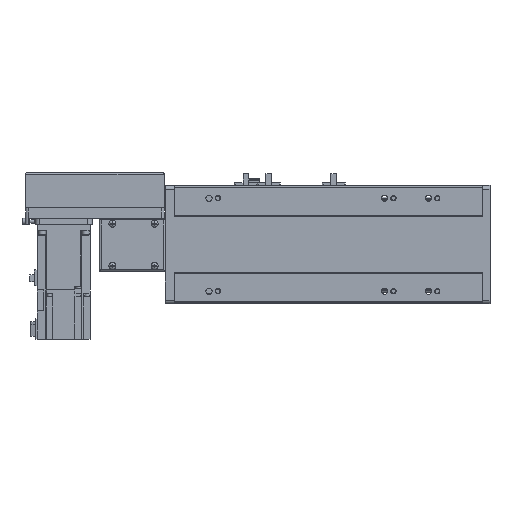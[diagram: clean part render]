
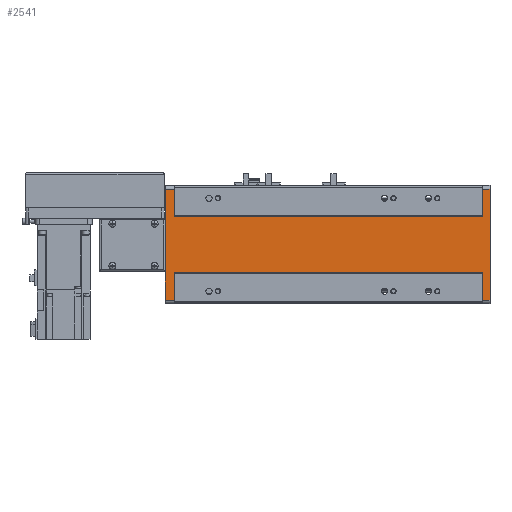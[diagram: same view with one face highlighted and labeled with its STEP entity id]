
A CAD part, front view. The second image highlights one B-rep face of the part: STEP entity #2541.
In plain terms, the highlighted planar face has unit normal (0, -1, 0).
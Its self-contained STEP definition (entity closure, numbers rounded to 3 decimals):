
#2541 = ADVANCED_FACE( '', ( #5406 ), #5407, .F. );
#5406 = FACE_OUTER_BOUND( '', #8538, .T. );
#5407 = PLANE( '', #8539 );
#8538 = EDGE_LOOP( '', ( #15620, #15621, #15622, #15623, #15624, #15625, #15626, #15627, #15628, #15629, #15630, #15631 ) );
#8539 = AXIS2_PLACEMENT_3D( '', #15632, #15633, #15634 );
#15620 = ORIENTED_EDGE( '', *, *, #18730, .T. );
#15621 = ORIENTED_EDGE( '', *, *, #19852, .F. );
#15622 = ORIENTED_EDGE( '', *, *, #19518, .F. );
#15623 = ORIENTED_EDGE( '', *, *, #20863, .T. );
#15624 = ORIENTED_EDGE( '', *, *, #19835, .T. );
#15625 = ORIENTED_EDGE( '', *, *, #20864, .F. );
#15626 = ORIENTED_EDGE( '', *, *, #20044, .F. );
#15627 = ORIENTED_EDGE( '', *, *, #19477, .T. );
#15628 = ORIENTED_EDGE( '', *, *, #20112, .F. );
#15629 = ORIENTED_EDGE( '', *, *, #20780, .F. );
#15630 = ORIENTED_EDGE( '', *, *, #19568, .T. );
#15631 = ORIENTED_EDGE( '', *, *, #20865, .T. );
#15632 = CARTESIAN_POINT( '', ( 362., 1., 32. ) );
#15633 = DIRECTION( '', ( 0., 1., 0. ) );
#15634 = DIRECTION( '', ( 0., 0., 1. ) );
#18730 = EDGE_CURVE( '', #22674, #22672, #22675, .T. );
#19477 = EDGE_CURVE( '', #23885, #23882, #23886, .T. );
#19518 = EDGE_CURVE( '', #23946, #23942, #23948, .T. );
#19568 = EDGE_CURVE( '', #24024, #24022, #24025, .T. );
#19835 = EDGE_CURVE( '', #24435, #24433, #24436, .T. );
#19852 = EDGE_CURVE( '', #23942, #22672, #24459, .T. );
#20044 = EDGE_CURVE( '', #23885, #24736, #24738, .T. );
#20112 = EDGE_CURVE( '', #24831, #23882, #24833, .T. );
#20780 = EDGE_CURVE( '', #24024, #24831, #25700, .T. );
#20863 = EDGE_CURVE( '', #23946, #24435, #25799, .T. );
#20864 = EDGE_CURVE( '', #24736, #24433, #25800, .T. );
#20865 = EDGE_CURVE( '', #24022, #22674, #25801, .T. );
#22672 = VERTEX_POINT( '', #28186 );
#22674 = VERTEX_POINT( '', #28189 );
#22675 = LINE( '', #28190, #28191 );
#23882 = VERTEX_POINT( '', #29953 );
#23885 = VERTEX_POINT( '', #29956 );
#23886 = LINE( '', #29957, #29958 );
#23942 = VERTEX_POINT( '', #30082 );
#23946 = VERTEX_POINT( '', #30087 );
#23948 = LINE( '', #30089, #30090 );
#24022 = VERTEX_POINT( '', #30219 );
#24024 = VERTEX_POINT( '', #30221 );
#24025 = LINE( '', #30222, #30223 );
#24433 = VERTEX_POINT( '', #30778 );
#24435 = VERTEX_POINT( '', #30780 );
#24436 = LINE( '', #30781, #30782 );
#24459 = LINE( '', #30813, #30814 );
#24736 = VERTEX_POINT( '', #31221 );
#24738 = LINE( '', #31224, #31225 );
#24831 = VERTEX_POINT( '', #31378 );
#24833 = LINE( '', #31380, #31381 );
#25700 = LINE( '', #32620, #32621 );
#25799 = LINE( '', #32760, #32761 );
#25800 = LINE( '', #32762, #32763 );
#25801 = LINE( '', #32764, #32765 );
#28186 = CARTESIAN_POINT( '', ( 11., 1., 32. ) );
#28189 = CARTESIAN_POINT( '', ( 362., 1., 32. ) );
#28190 = CARTESIAN_POINT( '', ( 362., 1., 32. ) );
#28191 = VECTOR( '', #34445, 1000. );
#29953 = CARTESIAN_POINT( '', ( 362., 1., -63.127 ) );
#29956 = CARTESIAN_POINT( '', ( 362., 1., -32. ) );
#29957 = CARTESIAN_POINT( '', ( 362., 1., 63.127 ) );
#29958 = VECTOR( '', #35402, 1000. );
#30082 = CARTESIAN_POINT( '', ( 11., 1., 63.127 ) );
#30087 = CARTESIAN_POINT( '', ( 0., 1., 63.127 ) );
#30089 = CARTESIAN_POINT( '', ( 0., 1., 63.127 ) );
#30090 = VECTOR( '', #35456, 1000. );
#30219 = CARTESIAN_POINT( '', ( 362., 1., 63.127 ) );
#30221 = CARTESIAN_POINT( '', ( 370., 1., 63.127 ) );
#30222 = CARTESIAN_POINT( '', ( 370., 1., 63.127 ) );
#30223 = VECTOR( '', #35505, 1000. );
#30778 = CARTESIAN_POINT( '', ( 11., 1., -63.127 ) );
#30780 = CARTESIAN_POINT( '', ( 0., 1., -63.127 ) );
#30781 = CARTESIAN_POINT( '', ( 0., 1., -63.127 ) );
#30782 = VECTOR( '', #35844, 1000. );
#30813 = CARTESIAN_POINT( '', ( 11., 1., 63.127 ) );
#30814 = VECTOR( '', #35862, 1000. );
#31221 = CARTESIAN_POINT( '', ( 11., 1., -32. ) );
#31224 = CARTESIAN_POINT( '', ( 362., 1., -32. ) );
#31225 = VECTOR( '', #36076, 1000. );
#31378 = CARTESIAN_POINT( '', ( 370., 1., -63.127 ) );
#31380 = CARTESIAN_POINT( '', ( 370., 1., -63.127 ) );
#31381 = VECTOR( '', #36141, 1000. );
#32620 = CARTESIAN_POINT( '', ( 370., 1., 63.127 ) );
#32621 = VECTOR( '', #36813, 1000. );
#32760 = CARTESIAN_POINT( '', ( 0., 1., 63.127 ) );
#32761 = VECTOR( '', #36888, 1000. );
#32762 = CARTESIAN_POINT( '', ( 11., 1., 63.127 ) );
#32763 = VECTOR( '', #36889, 1000. );
#32764 = CARTESIAN_POINT( '', ( 362., 1., 63.127 ) );
#32765 = VECTOR( '', #36890, 1000. );
#34445 = DIRECTION( '', ( -1., 0., 0. ) );
#35402 = DIRECTION( '', ( 0., 0., -1. ) );
#35456 = DIRECTION( '', ( 1., 0., 0. ) );
#35505 = DIRECTION( '', ( -1., 0., 0. ) );
#35844 = DIRECTION( '', ( 1., 0., 0. ) );
#35862 = DIRECTION( '', ( 0., 0., -1. ) );
#36076 = DIRECTION( '', ( -1., 0., 0. ) );
#36141 = DIRECTION( '', ( -1., 0., 0. ) );
#36813 = DIRECTION( '', ( 0., 0., -1. ) );
#36888 = DIRECTION( '', ( 0., 0., -1. ) );
#36889 = DIRECTION( '', ( 0., 0., -1. ) );
#36890 = DIRECTION( '', ( 0., 0., -1. ) );
